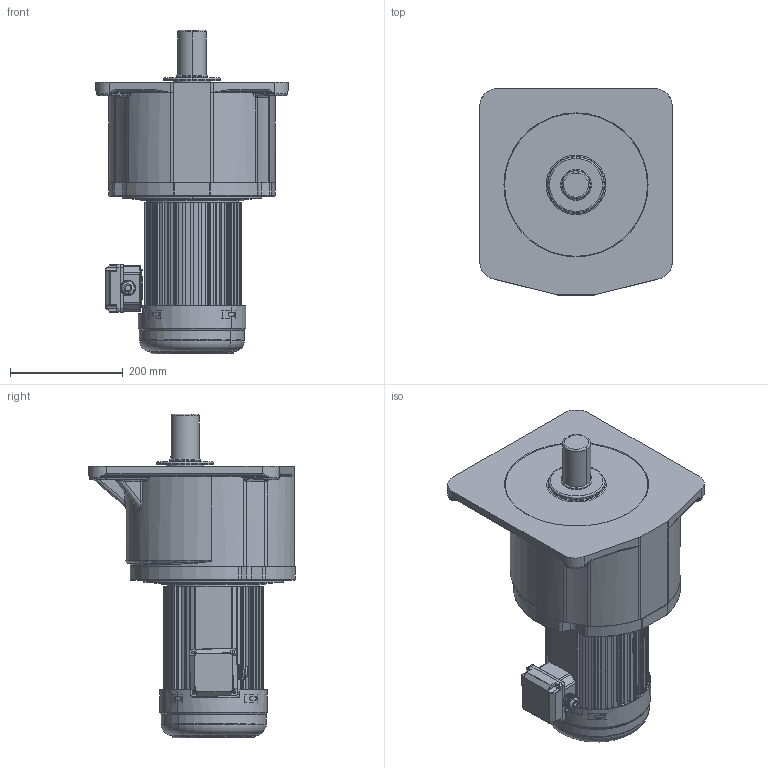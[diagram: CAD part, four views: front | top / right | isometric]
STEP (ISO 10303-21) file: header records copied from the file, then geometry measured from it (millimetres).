
FILE_DESCRIPTION (( 'STEP AP203' ), '1' );
FILE_NAME ('2200W饜6#湍价陬蕾宒.STEP', '2020-04-18T01:36:11', ( 'china' ), ( 'china' ), 'SwSTEP 2.0', 'SolidWorks 2019', '' );
FILE_SCHEMA (( 'CONFIG_CONTROL_DESIGN' ));
Length unit declared in the file: millimetre
Products named in the file (8): 湍价陬諉盄碟裔; 1.5KW6#蕾宒眊极; 瑞欶; 2200W饜6#湍价陬蕾宒; 蜊輛綴諉盄碟釱3; 諉芛; 2200W儂褲; 1500W棠憤迖殤
Assembly tree (7 placements, depth 2):
  2200W饜6#湍价陬蕾宒
    瑞欶
    蜊輛綴諉盄碟釱3
    諉芛
    2200W儂褲
    1500W棠憤迖殤
    湍价陬諉盄碟裔
    1.5KW6#蕾宒眊极
Bounding box: 342 x 367 x 574.98 mm (x, y, z)
Volume: 14368838.9 mm3; surface area: 1442499.5 mm2
Topology: 7 solids, 9 shells, 2483 faces, 6738 edges, 4284 vertices
Faces by surface type: plane 1114, cylinder 933, torus 215, bspline 135, sphere 60, cone 26
Entity records: 92627 total; most frequent: CARTESIAN_POINT 28526, ORIENTED_EDGE 13380, DIRECTION 13185, EDGE_CURVE 6690, AXIS2_PLACEMENT_3D 4621, VERTEX_POINT 4270, LINE 3943, VECTOR 3943
